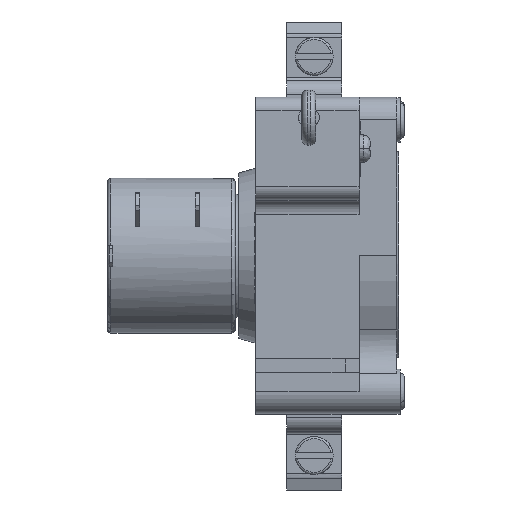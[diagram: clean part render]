
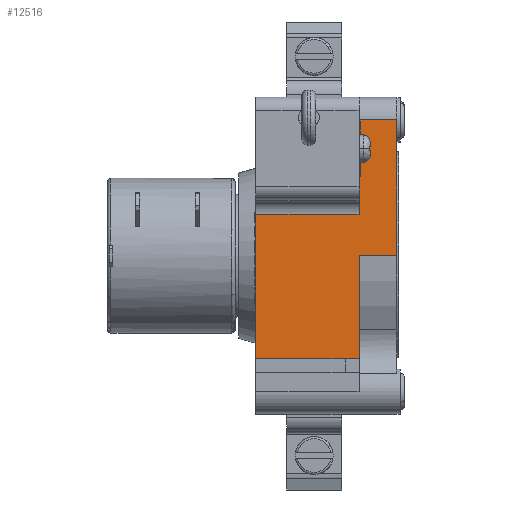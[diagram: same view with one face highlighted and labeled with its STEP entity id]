
A CAD part, top view. The second image highlights one B-rep face of the part: STEP entity #12516.
In plain terms, the highlighted planar face has unit normal (0, 0, 1).
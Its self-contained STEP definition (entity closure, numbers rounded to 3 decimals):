
#96=DIRECTION('',(0.,-1.,0.));
#97=VECTOR('',#96,20.999);
#98=CARTESIAN_POINT('',(-36.2,6.,23.));
#99=LINE('',#98,#97);
#764=DIRECTION('',(0.,1.,0.));
#765=VECTOR('',#764,19.75);
#766=CARTESIAN_POINT('',(-15.7,0.,23.));
#767=LINE('',#766,#765);
#1036=DIRECTION('',(0.,1.,0.));
#1037=VECTOR('',#1036,14.997);
#1038=CARTESIAN_POINT('',(-21.2,-14.997,23.));
#1039=LINE('',#1038,#1037);
#1054=DIRECTION('',(-1.,0.,0.));
#1055=VECTOR('',#1054,15.);
#1056=CARTESIAN_POINT('',(-21.2,-14.997,23.));
#1057=LINE('',#1056,#1055);
#1058=DIRECTION('',(-1.,0.,0.));
#1059=VECTOR('',#1058,2.);
#1060=CARTESIAN_POINT('',(-21.2,6.,23.));
#1061=LINE('',#1060,#1059);
#1062=DIRECTION('',(-1.,0.,0.));
#1063=VECTOR('',#1062,13.);
#1064=CARTESIAN_POINT('',(-23.2,6.,23.));
#1065=LINE('',#1064,#1063);
#2691=DIRECTION('',(-1.,0.,0.));
#2692=VECTOR('',#2691,5.5);
#2693=CARTESIAN_POINT('',(-15.7,19.75,23.));
#2694=LINE('',#2693,#2692);
#2699=DIRECTION('',(0.,-1.,0.));
#2700=VECTOR('',#2699,13.75);
#2701=CARTESIAN_POINT('',(-21.2,19.75,23.));
#2702=LINE('',#2701,#2700);
#5350=DIRECTION('',(1.,0.,0.));
#5351=VECTOR('',#5350,5.5);
#5352=CARTESIAN_POINT('',(-21.2,0.,23.));
#5353=LINE('',#5352,#5351);
#9420=CARTESIAN_POINT('',(-21.2,-14.997,23.));
#9422=VERTEX_POINT('',#9420);
#9423=CARTESIAN_POINT('',(-21.2,0.,23.));
#9424=VERTEX_POINT('',#9423);
#9425=CARTESIAN_POINT('',(-21.2,19.75,23.));
#9426=CARTESIAN_POINT('',(-21.2,6.,23.));
#9427=VERTEX_POINT('',#9425);
#9428=VERTEX_POINT('',#9426);
#9429=CARTESIAN_POINT('',(-15.7,19.75,23.));
#9430=VERTEX_POINT('',#9429);
#9431=CARTESIAN_POINT('',(-15.7,0.,23.));
#9432=VERTEX_POINT('',#9431);
#10217=CARTESIAN_POINT('',(-23.2,6.,23.));
#10218=VERTEX_POINT('',#10217);
#10231=CARTESIAN_POINT('',(-36.2,6.,23.));
#10232=VERTEX_POINT('',#10231);
#10273=CARTESIAN_POINT('',(-36.2,-14.999,23.));
#10274=VERTEX_POINT('',#10273);
#12495=CARTESIAN_POINT('',(-23.2,-23.,23.));
#12496=DIRECTION('',(0.,0.,1.));
#12497=DIRECTION('',(0.,1.,0.));
#12498=AXIS2_PLACEMENT_3D('',#12495,#12496,#12497);
#12499=PLANE('',#12498);
#12500=ORIENTED_EDGE('',*,*,#12104,.T.);
#12501=ORIENTED_EDGE('',*,*,#11848,.F.);
#12503=ORIENTED_EDGE('',*,*,#12502,.F.);
#12505=ORIENTED_EDGE('',*,*,#12504,.F.);
#12507=ORIENTED_EDGE('',*,*,#12506,.F.);
#12509=ORIENTED_EDGE('',*,*,#12508,.F.);
#12510=ORIENTED_EDGE('',*,*,#12363,.F.);
#12512=ORIENTED_EDGE('',*,*,#12511,.F.);
#12513=ORIENTED_EDGE('',*,*,#12486,.F.);
#12514=EDGE_LOOP('',(#12500,#12501,#12503,#12505,#12507,#12509,#12510,#12512,
#12513));
#12515=FACE_OUTER_BOUND('',#12514,.F.);
#12516=ADVANCED_FACE('',(#12515),#12499,.T.);
#11848=EDGE_CURVE('',#10232,#10274,#99,.T.);
#12104=EDGE_CURVE('',#9422,#10274,#1057,.T.);
#12363=EDGE_CURVE('',#9432,#9430,#767,.T.);
#12486=EDGE_CURVE('',#9422,#9424,#1039,.T.);
#12502=EDGE_CURVE('',#10218,#10232,#1065,.T.);
#12504=EDGE_CURVE('',#9428,#10218,#1061,.T.);
#12506=EDGE_CURVE('',#9427,#9428,#2702,.T.);
#12508=EDGE_CURVE('',#9430,#9427,#2694,.T.);
#12511=EDGE_CURVE('',#9424,#9432,#5353,.T.);
